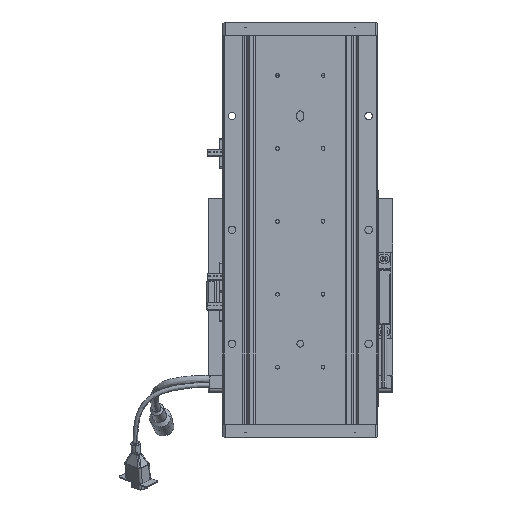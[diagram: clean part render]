
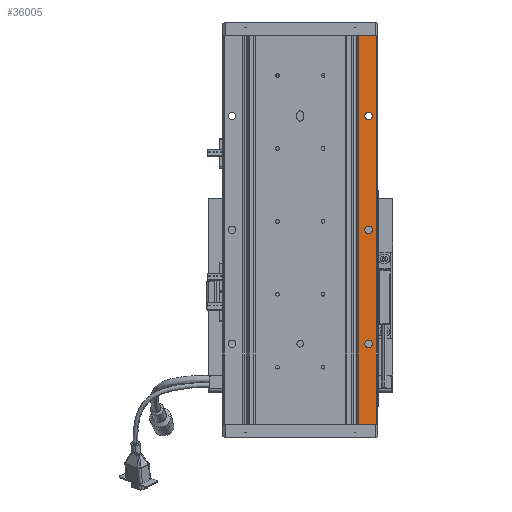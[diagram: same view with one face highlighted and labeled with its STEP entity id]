
A CAD part, front view. The second image highlights one B-rep face of the part: STEP entity #36005.
In plain terms, the highlighted planar face has unit normal (0, -1, 0).
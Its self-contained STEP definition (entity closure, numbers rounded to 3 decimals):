
#129 = ORIENTED_EDGE ( 'NONE', *, *, #18912, .T. ) ;
#799 = EDGE_CURVE ( 'NONE', #12259, #12140, #36581, .T. ) ;
#1707 = VERTEX_POINT ( 'NONE', #49621 ) ;
#2383 = ORIENTED_EDGE ( 'NONE', *, *, #21788, .T. ) ;
#3834 = CARTESIAN_POINT ( 'NONE',  ( 3333.53, 1428.268, 0. ) ) ;
#4604 = CARTESIAN_POINT ( 'NONE',  ( 3326.78, 1428.268, 170.5 ) ) ;
#4895 = CARTESIAN_POINT ( 'NONE',  ( 3326.78, 1428.268, 273.8 ) ) ;
#5829 = EDGE_LOOP ( 'NONE', ( #16100, #2383 ) ) ;
#7954 = CARTESIAN_POINT ( 'NONE',  ( 3317.768, 1428.268, 341. ) ) ;
#9881 = CARTESIAN_POINT ( 'NONE',  ( 3326.78, 1428.268, 267.2 ) ) ;
#10852 = DIRECTION ( 'NONE',  ( 0., 0., 1. ) ) ;
#11127 = CARTESIAN_POINT ( 'NONE',  ( 3326.78, 1428.268, 70.5 ) ) ;
#11362 = EDGE_CURVE ( 'NONE', #42342, #11503, #21906, .T. ) ;
#11428 = CARTESIAN_POINT ( 'NONE',  ( 3326.78, 1428.268, 173.8 ) ) ;
#11503 = VERTEX_POINT ( 'NONE', #9881 ) ;
#12140 = VERTEX_POINT ( 'NONE', #55532 ) ;
#12259 = VERTEX_POINT ( 'NONE', #3834 ) ;
#12647 = PLANE ( 'NONE',  #35396 ) ;
#12848 = ORIENTED_EDGE ( 'NONE', *, *, #799, .F. ) ;
#14654 = ORIENTED_EDGE ( 'NONE', *, *, #59568, .F. ) ;
#15283 = FACE_BOUND ( 'NONE', #5829, .T. ) ;
#15496 = DIRECTION ( 'NONE',  ( 0., 1., 0. ) ) ;
#16100 = ORIENTED_EDGE ( 'NONE', *, *, #11362, .T. ) ;
#16128 = DIRECTION ( 'NONE',  ( 0., 1., 0. ) ) ;
#16181 = EDGE_CURVE ( 'NONE', #65838, #1707, #40943, .T. ) ;
#16682 = VECTOR ( 'NONE', #66927, 1000. ) ;
#18912 = EDGE_CURVE ( 'NONE', #63813, #41884, #55723, .T. ) ;
#20115 = DIRECTION ( 'NONE',  ( 0., 1., 0. ) ) ;
#20402 = ORIENTED_EDGE ( 'NONE', *, *, #30020, .T. ) ;
#21561 = DIRECTION ( 'NONE',  ( 0., 0., 1. ) ) ;
#21788 = EDGE_CURVE ( 'NONE', #11503, #42342, #60169, .T. ) ;
#21906 = CIRCLE ( 'NONE', #63520, 3.3 ) ;
#22572 = FACE_OUTER_BOUND ( 'NONE', #62197, .T. ) ;
#24127 = CARTESIAN_POINT ( 'NONE',  ( 3326.78, 1428.268, 73.8 ) ) ;
#25195 = VECTOR ( 'NONE', #56213, 1000. ) ;
#25758 = LINE ( 'NONE', #30472, #38015 ) ;
#26307 = DIRECTION ( 'NONE',  ( 0., 1., 0. ) ) ;
#26837 = VERTEX_POINT ( 'NONE', #7954 ) ;
#28135 = DIRECTION ( 'NONE',  ( 0., 1., 0. ) ) ;
#30020 = EDGE_CURVE ( 'NONE', #39793, #26837, #63130, .T. ) ;
#30472 = CARTESIAN_POINT ( 'NONE',  ( 3317.768, 1428.268, 341. ) ) ;
#30542 = ORIENTED_EDGE ( 'NONE', *, *, #35043, .T. ) ;
#31216 = DIRECTION ( 'NONE',  ( 0., 0., 1. ) ) ;
#33464 = EDGE_LOOP ( 'NONE', ( #30542, #129 ) ) ;
#33955 = AXIS2_PLACEMENT_3D ( 'NONE', #4604, #15496, #31216 ) ;
#34464 = DIRECTION ( 'NONE',  ( 0., 1., 0. ) ) ;
#34508 = CARTESIAN_POINT ( 'NONE',  ( 3187.99, 1428.268, 341. ) ) ;
#35043 = EDGE_CURVE ( 'NONE', #41884, #63813, #56947, .T. ) ;
#35134 = AXIS2_PLACEMENT_3D ( 'NONE', #50423, #34464, #35159 ) ;
#35159 = DIRECTION ( 'NONE',  ( 0., 0., 1. ) ) ;
#35396 = AXIS2_PLACEMENT_3D ( 'NONE', #64421, #28135, #49316 ) ;
#35648 = CARTESIAN_POINT ( 'NONE',  ( 3329.68, 1428.268, 0. ) ) ;
#36005 = ADVANCED_FACE ( 'NONE', ( #15283, #60963, #38114, #22572 ), #12647, .F. ) ;
#36301 = DIRECTION ( 'NONE',  ( 0., 0., 1. ) ) ;
#36581 = LINE ( 'NONE', #35648, #25195 ) ;
#38015 = VECTOR ( 'NONE', #40744, 1000. ) ;
#38114 = FACE_BOUND ( 'NONE', #33464, .T. ) ;
#39793 = VERTEX_POINT ( 'NONE', #44987 ) ;
#40744 = DIRECTION ( 'NONE',  ( 0., 0., 1. ) ) ;
#40943 = CIRCLE ( 'NONE', #49324, 3.3 ) ;
#41032 = ORIENTED_EDGE ( 'NONE', *, *, #16181, .T. ) ;
#41884 = VERTEX_POINT ( 'NONE', #11428 ) ;
#42342 = VERTEX_POINT ( 'NONE', #4895 ) ;
#44350 = ORIENTED_EDGE ( 'NONE', *, *, #58875, .F. ) ;
#44987 = CARTESIAN_POINT ( 'NONE',  ( 3333.53, 1428.268, 341. ) ) ;
#45421 = DIRECTION ( 'NONE',  ( 0., 0., 1. ) ) ;
#45653 = CARTESIAN_POINT ( 'NONE',  ( 3326.78, 1428.268, 270.5 ) ) ;
#46456 = ORIENTED_EDGE ( 'NONE', *, *, #54068, .T. ) ;
#47066 = CARTESIAN_POINT ( 'NONE',  ( 3326.78, 1428.268, 170.5 ) ) ;
#47582 = VECTOR ( 'NONE', #56207, 1000. ) ;
#49316 = DIRECTION ( 'NONE',  ( 0., 0., 1. ) ) ;
#49324 = AXIS2_PLACEMENT_3D ( 'NONE', #11127, #16128, #21561 ) ;
#49621 = CARTESIAN_POINT ( 'NONE',  ( 3326.78, 1428.268, 67.2 ) ) ;
#50423 = CARTESIAN_POINT ( 'NONE',  ( 3326.78, 1428.268, 270.5 ) ) ;
#50861 = DIRECTION ( 'NONE',  ( 0., 1., 0. ) ) ;
#51426 = EDGE_LOOP ( 'NONE', ( #41032, #46456 ) ) ;
#54068 = EDGE_CURVE ( 'NONE', #1707, #65838, #62755, .T. ) ;
#54220 = LINE ( 'NONE', #66235, #16682 ) ;
#55532 = CARTESIAN_POINT ( 'NONE',  ( 3317.768, 1428.268, 0. ) ) ;
#55723 = CIRCLE ( 'NONE', #57321, 3.3 ) ;
#56207 = DIRECTION ( 'NONE',  ( -1., 0., 0. ) ) ;
#56213 = DIRECTION ( 'NONE',  ( -1., 0., 0. ) ) ;
#56947 = CIRCLE ( 'NONE', #33955, 3.3 ) ;
#57321 = AXIS2_PLACEMENT_3D ( 'NONE', #47066, #26307, #10852 ) ;
#57605 = CARTESIAN_POINT ( 'NONE',  ( 3326.78, 1428.268, 167.2 ) ) ;
#58875 = EDGE_CURVE ( 'NONE', #12140, #26837, #25758, .T. ) ;
#59568 = EDGE_CURVE ( 'NONE', #39793, #12259, #54220, .T. ) ;
#60169 = CIRCLE ( 'NONE', #35134, 3.3 ) ;
#60963 = FACE_BOUND ( 'NONE', #51426, .T. ) ;
#62197 = EDGE_LOOP ( 'NONE', ( #12848, #14654, #20402, #44350 ) ) ;
#62755 = CIRCLE ( 'NONE', #67312, 3.3 ) ;
#63130 = LINE ( 'NONE', #34508, #47582 ) ;
#63520 = AXIS2_PLACEMENT_3D ( 'NONE', #45653, #50861, #45421 ) ;
#63813 = VERTEX_POINT ( 'NONE', #57605 ) ;
#64421 = CARTESIAN_POINT ( 'NONE',  ( 3187.99, 1428.268, 0. ) ) ;
#65838 = VERTEX_POINT ( 'NONE', #24127 ) ;
#66235 = CARTESIAN_POINT ( 'NONE',  ( 3333.53, 1428.268, 341. ) ) ;
#66927 = DIRECTION ( 'NONE',  ( 0., 0., -1. ) ) ;
#67312 = AXIS2_PLACEMENT_3D ( 'NONE', #67377, #20115, #36301 ) ;
#67377 = CARTESIAN_POINT ( 'NONE',  ( 3326.78, 1428.268, 70.5 ) ) ;
